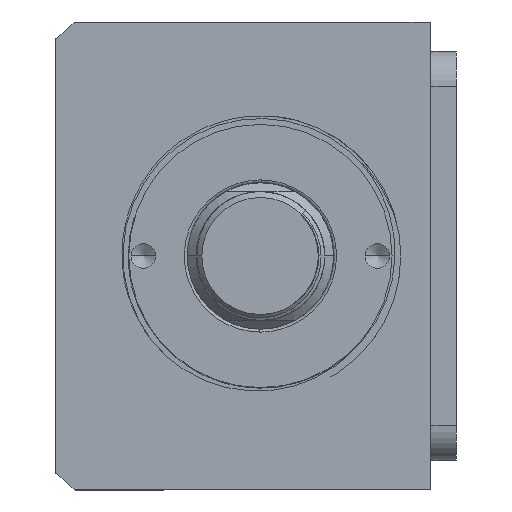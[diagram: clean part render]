
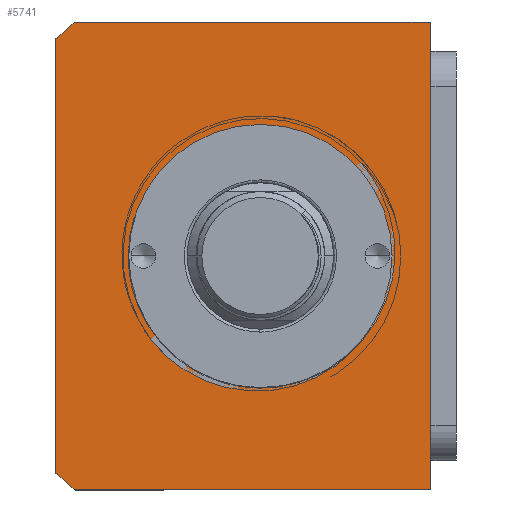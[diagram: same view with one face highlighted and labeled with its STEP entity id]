
A CAD part, front view. The second image highlights one B-rep face of the part: STEP entity #5741.
In plain terms, the highlighted planar face has unit normal (0, -1, 0) as drawn and (0, 0, 1) by its records, which use the part's own axes.
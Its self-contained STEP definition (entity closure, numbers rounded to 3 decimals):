
#98 = VERTEX_POINT ( 'NONE', #10594 ) ;
#99 = CARTESIAN_POINT ( 'NONE',  ( -40., 32., 105. ) ) ;
#119 = CARTESIAN_POINT ( 'NONE',  ( -40., -28.639, 105. ) ) ;
#661 = CIRCLE ( 'NONE', #15386, 51. ) ;
#863 = ORIENTED_EDGE ( 'NONE', *, *, #5334, .T. ) ;
#1079 = EDGE_LOOP ( 'NONE', ( #3869, #12751 ) ) ;
#1106 = CARTESIAN_POINT ( 'NONE',  ( 0., 0., 105. ) ) ;
#1245 = AXIS2_PLACEMENT_3D ( 'NONE', #2005, #11541, #3397 ) ;
#1487 = CARTESIAN_POINT ( 'NONE',  ( 40., 32., 105. ) ) ;
#1537 = DIRECTION ( 'NONE',  ( 1., 0., 0. ) ) ;
#1970 = EDGE_LOOP ( 'NONE', ( #10437, #9243, #7349, #863, #9271, #12943 ) ) ;
#2005 = CARTESIAN_POINT ( 'NONE',  ( 0., 3., 105. ) ) ;
#2148 = EDGE_CURVE ( 'NONE', #7574, #11640, #17631, .T. ) ;
#2377 = EDGE_CURVE ( 'NONE', #5002, #13733, #4963, .T. ) ;
#2503 = DIRECTION ( 'NONE',  ( 0., 0., 1. ) ) ;
#2758 = EDGE_CURVE ( 'NONE', #98, #10327, #6440, .T. ) ;
#2771 = AXIS2_PLACEMENT_3D ( 'NONE', #1106, #2503, #12042 ) ;
#3397 = DIRECTION ( 'NONE',  ( 1., 0., 0. ) ) ;
#3671 = CARTESIAN_POINT ( 'NONE',  ( 0., 3., 105. ) ) ;
#3767 = CARTESIAN_POINT ( 'NONE',  ( 40., 32., 105. ) ) ;
#3869 = ORIENTED_EDGE ( 'NONE', *, *, #2148, .F. ) ;
#4076 = LINE ( 'NONE', #9726, #11348 ) ;
#4724 = CIRCLE ( 'NONE', #8944, 22.5 ) ;
#4963 = CIRCLE ( 'NONE', #9225, 51. ) ;
#5002 = VERTEX_POINT ( 'NONE', #119 ) ;
#5024 = DIRECTION ( 'NONE',  ( 1., 0., 0. ) ) ;
#5267 = EDGE_CURVE ( 'NONE', #11640, #7574, #4724, .T. ) ;
#5334 = EDGE_CURVE ( 'NONE', #14771, #98, #661, .T. ) ;
#5388 = DIRECTION ( 'NONE',  ( 0., -1., 0. ) ) ;
#5487 = CARTESIAN_POINT ( 'NONE',  ( 0., 3., 105. ) ) ;
#5592 = VECTOR ( 'NONE', #13811, 1000. ) ;
#5741 = ADVANCED_FACE ( 'NONE', ( #8155, #15049 ), #10486, .T. ) ;
#6440 = LINE ( 'NONE', #1487, #5592 ) ;
#6874 = DIRECTION ( 'NONE',  ( 1., 0., 0. ) ) ;
#7039 = CARTESIAN_POINT ( 'NONE',  ( -40., 32., 105. ) ) ;
#7045 = DIRECTION ( 'NONE',  ( 0., 0., 1. ) ) ;
#7105 = DIRECTION ( 'NONE',  ( -1., 0., 0. ) ) ;
#7349 = ORIENTED_EDGE ( 'NONE', *, *, #14207, .T. ) ;
#7574 = VERTEX_POINT ( 'NONE', #14238 ) ;
#8155 = FACE_BOUND ( 'NONE', #1079, .T. ) ;
#8944 = AXIS2_PLACEMENT_3D ( 'NONE', #5487, #15100, #6874 ) ;
#9225 = AXIS2_PLACEMENT_3D ( 'NONE', #3671, #13211, #5024 ) ;
#9243 = ORIENTED_EDGE ( 'NONE', *, *, #2377, .T. ) ;
#9271 = ORIENTED_EDGE ( 'NONE', *, *, #2758, .T. ) ;
#9726 = CARTESIAN_POINT ( 'NONE',  ( -40., -32., 105. ) ) ;
#9730 = EDGE_CURVE ( 'NONE', #10327, #14852, #14935, .T. ) ;
#10327 = VERTEX_POINT ( 'NONE', #3767 ) ;
#10437 = ORIENTED_EDGE ( 'NONE', *, *, #13034, .T. ) ;
#10486 = PLANE ( 'NONE',  #2771 ) ;
#10594 = CARTESIAN_POINT ( 'NONE',  ( 40., -28.639, 105. ) ) ;
#10919 = LINE ( 'NONE', #99, #11369 ) ;
#11270 = VECTOR ( 'NONE', #7105, 1000. ) ;
#11348 = VECTOR ( 'NONE', #1537, 1000. ) ;
#11369 = VECTOR ( 'NONE', #5388, 1000. ) ;
#11541 = DIRECTION ( 'NONE',  ( 0., 0., 1. ) ) ;
#11640 = VERTEX_POINT ( 'NONE', #16949 ) ;
#12042 = DIRECTION ( 'NONE',  ( 1., 0., 0. ) ) ;
#12332 = CARTESIAN_POINT ( 'NONE',  ( 37.094, -32., 105. ) ) ;
#12519 = CARTESIAN_POINT ( 'NONE',  ( -40., 32., 105. ) ) ;
#12751 = ORIENTED_EDGE ( 'NONE', *, *, #5267, .F. ) ;
#12943 = ORIENTED_EDGE ( 'NONE', *, *, #9730, .T. ) ;
#12987 = CARTESIAN_POINT ( 'NONE',  ( -37.094, -32., 105. ) ) ;
#13034 = EDGE_CURVE ( 'NONE', #14852, #5002, #10919, .T. ) ;
#13211 = DIRECTION ( 'NONE',  ( 0., 0., 1. ) ) ;
#13733 = VERTEX_POINT ( 'NONE', #12987 ) ;
#13811 = DIRECTION ( 'NONE',  ( 0., 1., 0. ) ) ;
#14207 = EDGE_CURVE ( 'NONE', #13733, #14771, #4076, .T. ) ;
#14238 = CARTESIAN_POINT ( 'NONE',  ( 22.5, 3., 105. ) ) ;
#14771 = VERTEX_POINT ( 'NONE', #12332 ) ;
#14852 = VERTEX_POINT ( 'NONE', #12519 ) ;
#14935 = LINE ( 'NONE', #7039, #11270 ) ;
#15049 = FACE_OUTER_BOUND ( 'NONE', #1970, .T. ) ;
#15100 = DIRECTION ( 'NONE',  ( 0., 0., 1. ) ) ;
#15271 = CARTESIAN_POINT ( 'NONE',  ( 0., 3., 105. ) ) ;
#15386 = AXIS2_PLACEMENT_3D ( 'NONE', #15271, #7045, #16656 ) ;
#16656 = DIRECTION ( 'NONE',  ( 1., 0., 0. ) ) ;
#16949 = CARTESIAN_POINT ( 'NONE',  ( -22.5, 3., 105. ) ) ;
#17631 = CIRCLE ( 'NONE', #1245, 22.5 ) ;
